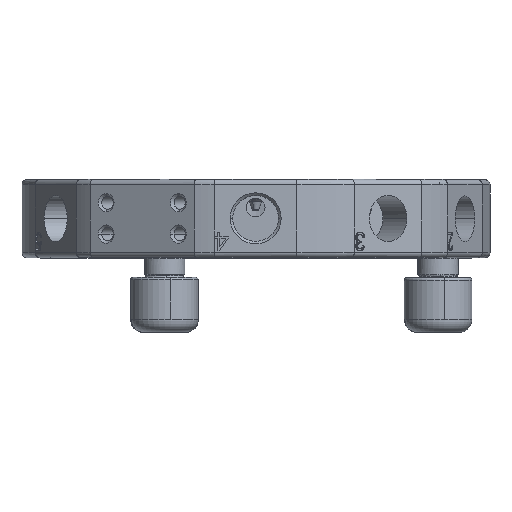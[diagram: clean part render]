
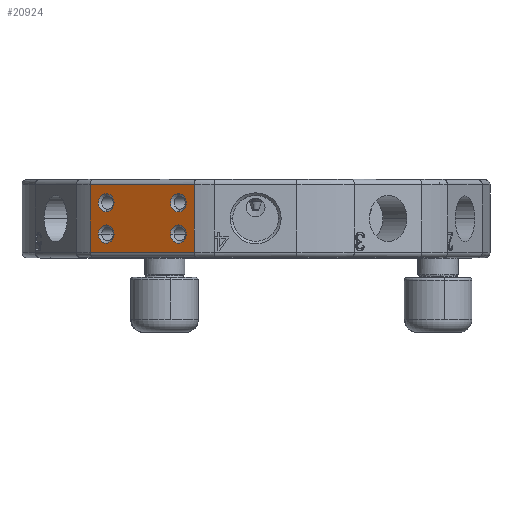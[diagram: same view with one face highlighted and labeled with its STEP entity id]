
A CAD part, top view. The second image highlights one B-rep face of the part: STEP entity #20924.
In plain terms, the highlighted planar face has unit normal (-0.5, 0, 0.866).
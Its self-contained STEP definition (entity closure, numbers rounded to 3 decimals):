
#838 = EDGE_CURVE ( 'NONE', #9720, #42002, #37888, .T. ) ;
#1599 = DIRECTION ( 'NONE',  ( 0.5, 0., -0.866 ) ) ;
#1910 = VERTEX_POINT ( 'NONE', #41734 ) ;
#2165 = CARTESIAN_POINT ( 'NONE',  ( -482.298, -29.323, -293.985 ) ) ;
#2504 = CARTESIAN_POINT ( 'NONE',  ( -468.442, -25.823, -285.985 ) ) ;
#3966 = FACE_BOUND ( 'NONE', #16557, .T. ) ;
#3969 = LINE ( 'NONE', #27450, #21735 ) ;
#4380 = DIRECTION ( 'NONE',  ( 0.5, 0., -0.866 ) ) ;
#4542 = CARTESIAN_POINT ( 'NONE',  ( -482.298, -33.573, -293.985 ) ) ;
#5030 = CIRCLE ( 'NONE', #38388, 1.75 ) ;
#5418 = AXIS2_PLACEMENT_3D ( 'NONE', #30798, #10767, #34141 ) ;
#6785 = ORIENTED_EDGE ( 'NONE', *, *, #32456, .T. ) ;
#7212 = CARTESIAN_POINT ( 'NONE',  ( -468.442, -33.573, -285.985 ) ) ;
#7434 = DIRECTION ( 'NONE',  ( -0.866, 0., -0.5 ) ) ;
#7654 = EDGE_CURVE ( 'NONE', #13683, #1910, #22964, .T. ) ;
#7898 = DIRECTION ( 'NONE',  ( -0.866, 0., -0.5 ) ) ;
#8195 = CIRCLE ( 'NONE', #24190, 1.75 ) ;
#8291 = CARTESIAN_POINT ( 'NONE',  ( -483.814, -33.573, -294.86 ) ) ;
#9235 = ORIENTED_EDGE ( 'NONE', *, *, #35710, .T. ) ;
#9389 = DIRECTION ( 'NONE',  ( 0.5, 0., -0.866 ) ) ;
#9720 = VERTEX_POINT ( 'NONE', #8291 ) ;
#9789 = ORIENTED_EDGE ( 'NONE', *, *, #32583, .T. ) ;
#9949 = AXIS2_PLACEMENT_3D ( 'NONE', #21635, #1599, #25022 ) ;
#9968 = VERTEX_POINT ( 'NONE', #26965 ) ;
#10174 = CIRCLE ( 'NONE', #19421, 1.75 ) ;
#10178 = LINE ( 'NONE', #33189, #38956 ) ;
#10572 = DIRECTION ( 'NONE',  ( -0.866, 0., -0.5 ) ) ;
#10767 = DIRECTION ( 'NONE',  ( 0.5, 0., -0.866 ) ) ;
#10858 = DIRECTION ( 'NONE',  ( 0.5, 0., -0.866 ) ) ;
#11816 = FACE_OUTER_BOUND ( 'NONE', #43418, .T. ) ;
#11999 = VECTOR ( 'NONE', #43349, 1000. ) ;
#12862 = ORIENTED_EDGE ( 'NONE', *, *, #7654, .F. ) ;
#12915 = CARTESIAN_POINT ( 'NONE',  ( -485.348, -23.573, -295.746 ) ) ;
#13280 = DIRECTION ( 'NONE',  ( 0.866, 0., 0.5 ) ) ;
#13475 = VERTEX_POINT ( 'NONE', #43298 ) ;
#13480 = CARTESIAN_POINT ( 'NONE',  ( -480.783, -33.573, -293.11 ) ) ;
#13683 = VERTEX_POINT ( 'NONE', #30959 ) ;
#15749 = ORIENTED_EDGE ( 'NONE', *, *, #22128, .T. ) ;
#15947 = DIRECTION ( 'NONE',  ( 0.5, 0., -0.866 ) ) ;
#16017 = VERTEX_POINT ( 'NONE', #23135 ) ;
#16122 = CIRCLE ( 'NONE', #23310, 1.75 ) ;
#16278 = DIRECTION ( 'NONE',  ( 0., 1., 0. ) ) ;
#16557 = EDGE_LOOP ( 'NONE', ( #6785, #26342 ) ) ;
#16649 = EDGE_CURVE ( 'NONE', #16017, #41965, #31513, .T. ) ;
#17648 = AXIS2_PLACEMENT_3D ( 'NONE', #12915, #36322, #16278 ) ;
#18046 = EDGE_LOOP ( 'NONE', ( #9235, #24187 ) ) ;
#19092 = ORIENTED_EDGE ( 'NONE', *, *, #32983, .T. ) ;
#19421 = AXIS2_PLACEMENT_3D ( 'NONE', #7212, #30609, #10572 ) ;
#19913 = CARTESIAN_POINT ( 'NONE',  ( -465.392, -23.573, -284.224 ) ) ;
#20672 = FACE_BOUND ( 'NONE', #38461, .T. ) ;
#20924 = ADVANCED_FACE ( 'NONE', ( #29602, #38496, #3966, #20672, #11816 ), #22849, .F. ) ;
#21635 = CARTESIAN_POINT ( 'NONE',  ( -482.298, -33.573, -293.985 ) ) ;
#21650 = CIRCLE ( 'NONE', #42371, 1.75 ) ;
#21680 = VERTEX_POINT ( 'NONE', #29434 ) ;
#21735 = VECTOR ( 'NONE', #7434, 1000. ) ;
#22128 = EDGE_CURVE ( 'NONE', #34851, #9968, #16122, .T. ) ;
#22779 = ORIENTED_EDGE ( 'NONE', *, *, #41839, .T. ) ;
#22849 = PLANE ( 'NONE',  #17648 ) ;
#22964 = LINE ( 'NONE', #19913, #11999 ) ;
#23135 = CARTESIAN_POINT ( 'NONE',  ( -469.957, -33.573, -286.86 ) ) ;
#23310 = AXIS2_PLACEMENT_3D ( 'NONE', #35992, #15947, #39371 ) ;
#24187 = ORIENTED_EDGE ( 'NONE', *, *, #16649, .T. ) ;
#24190 = AXIS2_PLACEMENT_3D ( 'NONE', #30875, #10858, #34220 ) ;
#24397 = CARTESIAN_POINT ( 'NONE',  ( -468.442, -27.573, -285.985 ) ) ;
#25022 = DIRECTION ( 'NONE',  ( -0.866, 0., -0.5 ) ) ;
#25327 = EDGE_CURVE ( 'NONE', #21680, #13475, #10178, .T. ) ;
#25442 = AXIS2_PLACEMENT_3D ( 'NONE', #4542, #27930, #7898 ) ;
#26342 = ORIENTED_EDGE ( 'NONE', *, *, #34625, .T. ) ;
#26416 = ORIENTED_EDGE ( 'NONE', *, *, #838, .T. ) ;
#26965 = CARTESIAN_POINT ( 'NONE',  ( -482.298, -25.823, -293.985 ) ) ;
#27408 = VERTEX_POINT ( 'NONE', #32856 ) ;
#27450 = CARTESIAN_POINT ( 'NONE',  ( -485.348, -24.073, -295.746 ) ) ;
#27743 = CARTESIAN_POINT ( 'NONE',  ( -465.392, -37.073, -284.224 ) ) ;
#27776 = DIRECTION ( 'NONE',  ( 0., 1., 0. ) ) ;
#27930 = DIRECTION ( 'NONE',  ( 0.5, 0., -0.866 ) ) ;
#29405 = CARTESIAN_POINT ( 'NONE',  ( -482.298, -27.573, -293.985 ) ) ;
#29434 = CARTESIAN_POINT ( 'NONE',  ( -485.348, -24.073, -295.746 ) ) ;
#29602 = FACE_BOUND ( 'NONE', #30713, .T. ) ;
#30145 = CARTESIAN_POINT ( 'NONE',  ( -466.926, -33.573, -285.11 ) ) ;
#30609 = DIRECTION ( 'NONE',  ( 0.5, 0., -0.866 ) ) ;
#30671 = VERTEX_POINT ( 'NONE', #2504 ) ;
#30713 = EDGE_LOOP ( 'NONE', ( #9789, #26416 ) ) ;
#30798 = CARTESIAN_POINT ( 'NONE',  ( -468.442, -33.573, -285.985 ) ) ;
#30875 = CARTESIAN_POINT ( 'NONE',  ( -468.442, -27.573, -285.985 ) ) ;
#30920 = VECTOR ( 'NONE', #13280, 1000. ) ;
#30959 = CARTESIAN_POINT ( 'NONE',  ( -465.392, -24.073, -284.224 ) ) ;
#31513 = CIRCLE ( 'NONE', #5418, 1.75 ) ;
#31980 = LINE ( 'NONE', #27743, #30920 ) ;
#32456 = EDGE_CURVE ( 'NONE', #27408, #30671, #8195, .T. ) ;
#32583 = EDGE_CURVE ( 'NONE', #42002, #9720, #37493, .T. ) ;
#32764 = DIRECTION ( 'NONE',  ( 0., 1., 0. ) ) ;
#32856 = CARTESIAN_POINT ( 'NONE',  ( -468.442, -29.323, -285.985 ) ) ;
#32983 = EDGE_CURVE ( 'NONE', #13683, #21680, #3969, .T. ) ;
#33189 = CARTESIAN_POINT ( 'NONE',  ( -485.348, -23.573, -295.746 ) ) ;
#34141 = DIRECTION ( 'NONE',  ( -0.866, 0., -0.5 ) ) ;
#34220 = DIRECTION ( 'NONE',  ( 0., 1., 0. ) ) ;
#34625 = EDGE_CURVE ( 'NONE', #30671, #27408, #21650, .T. ) ;
#34851 = VERTEX_POINT ( 'NONE', #2165 ) ;
#35710 = EDGE_CURVE ( 'NONE', #41965, #16017, #10174, .T. ) ;
#35992 = CARTESIAN_POINT ( 'NONE',  ( -482.298, -27.573, -293.985 ) ) ;
#36322 = DIRECTION ( 'NONE',  ( 0.5, 0., -0.866 ) ) ;
#37377 = ORIENTED_EDGE ( 'NONE', *, *, #25327, .T. ) ;
#37493 = CIRCLE ( 'NONE', #9949, 1.75 ) ;
#37583 = EDGE_CURVE ( 'NONE', #13475, #1910, #31980, .T. ) ;
#37888 = CIRCLE ( 'NONE', #25442, 1.75 ) ;
#38388 = AXIS2_PLACEMENT_3D ( 'NONE', #29405, #9389, #32764 ) ;
#38461 = EDGE_LOOP ( 'NONE', ( #15749, #22779 ) ) ;
#38496 = FACE_BOUND ( 'NONE', #18046, .T. ) ;
#38956 = VECTOR ( 'NONE', #43461, 1000. ) ;
#39371 = DIRECTION ( 'NONE',  ( 0., 1., 0. ) ) ;
#41734 = CARTESIAN_POINT ( 'NONE',  ( -465.392, -37.073, -284.224 ) ) ;
#41779 = ORIENTED_EDGE ( 'NONE', *, *, #37583, .T. ) ;
#41839 = EDGE_CURVE ( 'NONE', #9968, #34851, #5030, .T. ) ;
#41965 = VERTEX_POINT ( 'NONE', #30145 ) ;
#42002 = VERTEX_POINT ( 'NONE', #13480 ) ;
#42371 = AXIS2_PLACEMENT_3D ( 'NONE', #24397, #4380, #27776 ) ;
#43298 = CARTESIAN_POINT ( 'NONE',  ( -485.348, -37.073, -295.746 ) ) ;
#43349 = DIRECTION ( 'NONE',  ( 0., -1., 0. ) ) ;
#43418 = EDGE_LOOP ( 'NONE', ( #37377, #41779, #12862, #19092 ) ) ;
#43461 = DIRECTION ( 'NONE',  ( 0., -1., 0. ) ) ;
